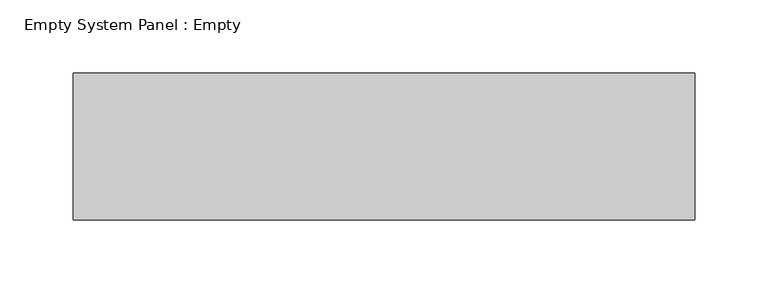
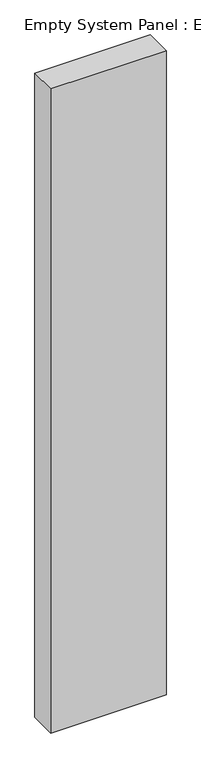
"""IFC4 building model written with IfcOpenShell, lengths in millimetres: plate geometry, Empty System Panel : Empty."""

import ifcopenshell
import ifcopenshell.guid

model = None  # the IFC model being written
_history = None  # IfcOwnerHistory: only IFC2X3 demands one
_inside = {}  # id of a spatial element -> (the spatial element, [elements in it])
_under = {}  # id of a project, library or spatial element -> (it, [spatial elements below it])
_declared = {}  # id of a project -> (the project, [libraries it declares])
_typed = {}  # id of a type object -> (the type object, [elements of that type])
_made_of = {}  # id of a material, layer set ... -> (it, [elements and type objects made of it])


def new_model(schema):
    """Start an empty IFC model of exactly this schema.

    Asked for "IFC4X3", IfcOpenShell would pick the latest addendum, in which some entities
    have other attributes; the version numbers below select the first issue.
    IFC2X3 requires an IfcOwnerHistory on every rooted entity: one is made here for all.
    """
    global model, _history
    if schema == "IFC4X3":
        model = ifcopenshell.file(schema_version=(4, 3, 0, 0))
    else:
        model = ifcopenshell.file(schema=schema)
    _inside.clear()
    _under.clear()
    _declared.clear()
    _typed.clear()
    _made_of.clear()
    _history = None
    if model.schema == "IFC2X3":
        org = make("IfcOrganization", Name="unknown")
        user = make(
            "IfcPersonAndOrganization",
            ThePerson=make("IfcPerson", FamilyName="unknown"),
            TheOrganization=org,
        )
        app = make(
            "IfcApplication",
            ApplicationDeveloper=org,
            Version="unknown",
            ApplicationFullName="unknown",
            ApplicationIdentifier="unknown",
        )
        _history = make(
            "IfcOwnerHistory",
            OwningUser=user,
            OwningApplication=app,
            ChangeAction="ADDED",
            CreationDate=0,
        )
    return model


def make(cls, **values):
    """One entity of the class cls with the attributes given. An attribute that is None is left unset."""
    return model.create_entity(
        cls, **{name: value for name, value in values.items() if value is not None}
    )


def rooted(cls, **values):
    """An entity with a GlobalId (a new one), such as an element, a storey or a relation."""
    return make(cls, GlobalId=ifcopenshell.guid.new(), OwnerHistory=_history, **values)


def si_unit(unit_type, name, prefix=None):
    """IfcSIUnit, for example si_unit("LENGTHUNIT", "METRE", prefix="MILLI")."""
    return make("IfcSIUnit", UnitType=unit_type, Prefix=prefix, Name=name)


def assignment(units):
    """IfcUnitAssignment: the units of a project."""
    return None if units is None else make("IfcUnitAssignment", Units=units)


def point(xyz):
    """IfcCartesianPoint."""
    return None if xyz is None else make("IfcCartesianPoint", Coordinates=xyz)


def direction(xyz):
    """IfcDirection."""
    return None if xyz is None else make("IfcDirection", DirectionRatios=xyz)


def frame(location, z_axis=None, x_axis=None):
    """IfcAxis2Placement3D, a coordinate frame: its origin and axes. An axis left out is left unset."""
    return make(
        "IfcAxis2Placement3D",
        Location=point(location),
        Axis=direction(z_axis),
        RefDirection=direction(x_axis),
    )


def origin():
    """The frame at (0, 0, 0) with its axes left unset."""
    return frame((0.0, 0.0, 0.0))


def origin_with_axes():
    """The frame at (0, 0, 0) with the z axis (0, 0, 1) and the x axis (1, 0, 0) written out."""
    return frame((0.0, 0.0, 0.0), z_axis=(0.0, 0.0, 1.0), x_axis=(1.0, 0.0, 0.0))


def place(relative_to, where):
    """IfcLocalPlacement: puts the frame where relative to a parent placement (None: the world)."""
    return make(
        "IfcLocalPlacement", PlacementRelTo=relative_to, RelativePlacement=where
    )


def context(
    kind, dimensions, precision=None, world=None, true_north=None, identifier=None
):
    """IfcGeometricRepresentationContext, for example the 3D "Model" context."""
    return make(
        "IfcGeometricRepresentationContext",
        ContextIdentifier=identifier,
        ContextType=kind,
        CoordinateSpaceDimension=dimensions,
        Precision=precision,
        WorldCoordinateSystem=world,
        TrueNorth=true_north,
    )


def project(units=None, contexts=None):
    """IfcProject with its units and contexts."""
    return rooted(
        "IfcProject",
        Name="project",
        RepresentationContexts=contexts,
        UnitsInContext=assignment(units),
    )


def spatial(cls, under=None, at=None, **own):
    """A site, building, storey or space (cls), placed at a placement, below another one or the project."""
    s = rooted(cls, ObjectPlacement=at, **own)
    if under is not None:
        _under.setdefault(under.id(), (under, []))[1].append(s)
    return s


def polyline(points):
    """IfcPolyline through the points."""
    return make("IfcPolyline", Points=[point(p) for p in points])


def outline(outer, holes=None, kind="AREA"):
    """IfcArbitraryClosedProfileDef: a profile drawn as a closed curve; with holes, ...WithVoids."""
    if holes is None:
        return make("IfcArbitraryClosedProfileDef", ProfileType=kind, OuterCurve=outer)
    return make(
        "IfcArbitraryProfileDefWithVoids",
        ProfileType=kind,
        OuterCurve=outer,
        InnerCurves=holes,
    )


def extrude(swept, where, along, depth):
    """IfcExtrudedAreaSolid: the profile swept, set in the frame where, extruded along a direction by depth."""
    return make(
        "IfcExtrudedAreaSolid",
        SweptArea=swept,
        Position=where,
        ExtrudedDirection=direction(along),
        Depth=depth,
    )


def shape(context_of_items, identifier, shape_type, items):
    """IfcShapeRepresentation: the items that make up one representation, for example the "Body"."""
    return make(
        "IfcShapeRepresentation",
        ContextOfItems=context_of_items,
        RepresentationIdentifier=identifier,
        RepresentationType=shape_type,
        Items=items,
    )


def source(mapping_origin, context_of_items, identifier, shape_type, items):
    """IfcRepresentationMap: a shape defined once, which mapped items show again and again."""
    return make(
        "IfcRepresentationMap",
        MappingOrigin=mapping_origin,
        MappedRepresentation=shape(context_of_items, identifier, shape_type, items),
    )


def transform(
    local_origin,
    x_axis=None,
    y_axis=None,
    z_axis=None,
    scale=None,
    scale2=None,
    scale3=None,
    uniform=True,
):
    """IfcCartesianTransformationOperator3D, or its non-uniform kind. x_axis, y_axis, z_axis: its Axis1, 2, 3."""
    if uniform:
        return make(
            "IfcCartesianTransformationOperator3D",
            Axis1=direction(x_axis),
            Axis2=direction(y_axis),
            LocalOrigin=point(local_origin),
            Scale=scale,
            Axis3=direction(z_axis),
        )
    return make(
        "IfcCartesianTransformationOperator3DnonUniform",
        Axis1=direction(x_axis),
        Axis2=direction(y_axis),
        LocalOrigin=point(local_origin),
        Scale=scale,
        Axis3=direction(z_axis),
        Scale2=scale2,
        Scale3=scale3,
    )


def mapped(mapping_source, mapping_target):
    """IfcMappedItem: shows the shape of a source again, moved by a transform."""
    return make(
        "IfcMappedItem", MappingSource=mapping_source, MappingTarget=mapping_target
    )


def made_of(thing, what):
    """Note that an element or type object is made of a material, layer set ...; save() writes the relation."""
    if what is not None:
        _made_of.setdefault(what.id(), (what, []))[1].append(thing)
    return thing


def element(
    cls,
    number,
    at=None,
    inside=None,
    cuts=None,
    type_object=None,
    material=None,
    context=None,
    identifier="Body",
    shape_type=None,
    held_by="IfcProductDefinitionShape",
    body=None,
    shapes=None,
    **own,
):
    """One element of the class cls, such as IfcWall. Its Tag is "e" and its number.

    at: its placement. inside: the storey or other place that contains it. cuts: it is an
    opening in that element (IfcRelVoidsElement). A single representation is given by context,
    identifier, shape_type and body (its items); several are given by shapes. held_by: the class
    of the entity that holds the representations. save() writes the other relations.
    """
    e = rooted(cls, Tag="e%d" % number, ObjectPlacement=at, **own)
    if body is not None:
        shapes = [shape(context, identifier, shape_type, body)]
    if shapes is not None:
        e.Representation = make(held_by, Representations=shapes)
    if inside is not None:
        _inside.setdefault(inside.id(), (inside, []))[1].append(e)
    if cuts is not None:
        rooted(
            "IfcRelVoidsElement", RelatingBuildingElement=cuts, RelatedOpeningElement=e
        )
    if type_object is not None:
        _typed.setdefault(type_object.id(), (type_object, []))[1].append(e)
    return made_of(e, material)


def aggregate(whole, parts):
    """IfcRelAggregates: a whole, such as a stair, and the parts it consists of."""
    return rooted("IfcRelAggregates", RelatingObject=whole, RelatedObjects=parts)


def save(model, path):
    """Write the relations noted so far, then the file.

    IfcRelAggregates (storeys below a building ...), IfcRelContainedInSpatialStructure (elements
    in a storey), IfcRelDefinesByType, IfcRelAssociatesMaterial and IfcRelDeclares: one each for
    every whole, place, type object, material and project.
    """
    for whole, parts in _under.values():
        aggregate(whole, parts)
    for where, things in _inside.values():
        rooted(
            "IfcRelContainedInSpatialStructure",
            RelatedElements=things,
            RelatingStructure=where,
        )
    for kind, things in _typed.values():
        rooted("IfcRelDefinesByType", RelatedObjects=things, RelatingType=kind)
    for what, things in _made_of.values():
        rooted("IfcRelAssociatesMaterial", RelatedObjects=things, RelatingMaterial=what)
    for by, libraries in _declared.values():
        rooted("IfcRelDeclares", RelatingContext=by, RelatedDefinitions=libraries)
    model.write(path)


def empty_system_panel_empty_a01ad49f(model_context):
    return source(origin(), model_context, "Body", "SweptSolid", [
        extrude(outline(polyline([(211.7500001, 50.0), (-211.7500001, 50.0), (-211.7500001, 150.0), (211.7500001, 150.0), (211.7500001, 50.0)])), origin_with_axes(), (0.0, 0.0, 1.0), 2500.0),
    ])


if __name__ == "__main__":
    model = new_model("IFC4")
    model_context = context("Model", 3, world=origin())
    ifc_project = project(units=[si_unit("LENGTHUNIT", "METRE", prefix="MILLI")], contexts=[model_context])
    site = spatial("IfcSite", under=ifc_project)
    building = spatial("IfcBuilding", under=site)
    placement = place(None, origin())
    empty_system_panel_empty_shape = empty_system_panel_empty_a01ad49f(model_context)
    element("IfcPlate", 1, ObjectType="Empty System Panel : Empty", at=placement, inside=building, context=model_context, shape_type="MappedRepresentation", body=[
        mapped(empty_system_panel_empty_shape, transform((0.0, 0.0, 0.0), x_axis=(1.0, 0.0, 0.0), y_axis=(0.0, 1.0, 0.0), z_axis=(0.0, 0.0, 1.0))),
    ])
    save(model, "model.ifc")
